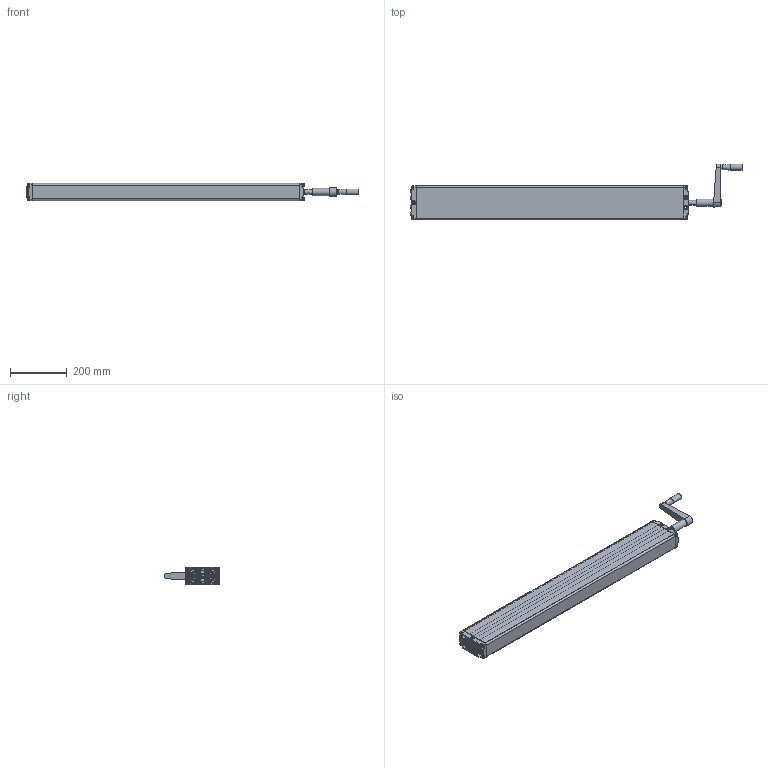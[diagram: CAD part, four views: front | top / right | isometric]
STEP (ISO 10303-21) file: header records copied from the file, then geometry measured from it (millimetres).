
FILE_DESCRIPTION(/* description */ ('Unknown'),/* implementation_level */ '2;1');
FILE_NAME(/* name */ '312.20327 Pumpe PB 6870 W mit Handkurbel',/* time_stamp */ '2016-09-06T17:51:45+02:00',/* author */ ('Unknown'),/* organization */ ('Unknown'),/* preprocessor_version */ 'ST-DEVELOPER v16.7',/* originating_system */ 'DEX',/* authorisation */ $);
FILE_SCHEMA (('AUTOMOTIVE_DESIGN {1 0 10303 214 3 1 1}'));
Products named in the file (21): 102.20327; 115.00039; 125.00045; 115.00008; 142.00021; 125.00021; 113.00005; 128.00001; 125.00052; 126.00013; 125.00053; 127.00014; Handgriff; 142.00013; 125.00149; 115.00140; 126.00006; 122.00040; 119.00040; 126.00005; 142.00057
Assembly tree (32 placements, depth 3):
  102.20327
    115.00039  x6
      125.00045
      115.00008
      142.00021
      125.00021
    113.00005
      128.00001
      125.00052
      126.00013
      125.00053
      127.00014
      Handgriff
    142.00013  x8
    125.00149
    115.00140
      126.00006
      122.00040
    119.00040
    126.00005
    142.00057
Bounding box: 1166.72 x 195.5 x 60.3 mm (x, y, z)
Volume: 1292794.3 mm3; surface area: 854760 mm2
Topology: 38 solids, 38 shells, 2679 faces, 6323 edges, 3658 vertices
Faces by surface type: plane 755, bspline 707, cylinder 597, cone 384, torus 176, sphere 60
Full cylindrical faces by diameter (mm): 3.5 x6, 4 x2, 4.1 x6, 4.2 x7, 4.917 x2, 5 x8, 6.917 x12, 8 x14, 9.8 x8, 10 x4, 10.4 x1, 12.8 x1, 13 x1, 14 x1, 14.4 x6, 16 x2, 17 x1, 17.3 x6, 17.9 x12, 18 x1, 19 x1, 20.6 x1, 21 x1, 22 x1, 25.5 x1
Entity records: 101220 total; most frequent: CARTESIAN_POINT 55695, ORIENTED_EDGE 8526, DIRECTION 6939, EDGE_CURVE 4263, AXIS2_PLACEMENT_3D 2790, VERTEX_POINT 2625, FACE_BOUND 2108, EDGE_LOOP 2105
